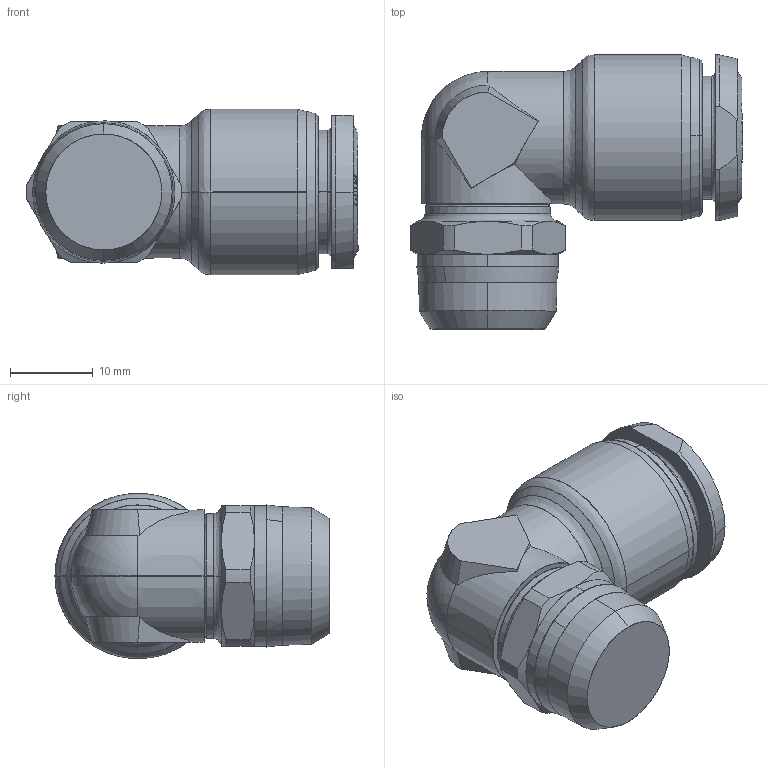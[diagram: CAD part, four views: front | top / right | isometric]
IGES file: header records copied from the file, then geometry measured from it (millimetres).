
Start section: SolidWorks IGES file using analytic representation for surfaces
Global section: file name: C:\Users\Cad01\Desktop\assiemi alfa\85110\8511100018A.igs; native system: SolidWorks 2012; preprocessor: SolidWorks 2012; author: Cad01; date: 121031.152155; units: millimetre
Bounding box: 40.1 x 33.1 x 20 mm (x, y, z)
Surface area: 3822.6 mm2 (no closed solid volume)
Topology: 0 solids, 0 shells, 157 faces, 1583 edges, 1583 vertices
Faces by surface type: bspline 90, revolution 67
